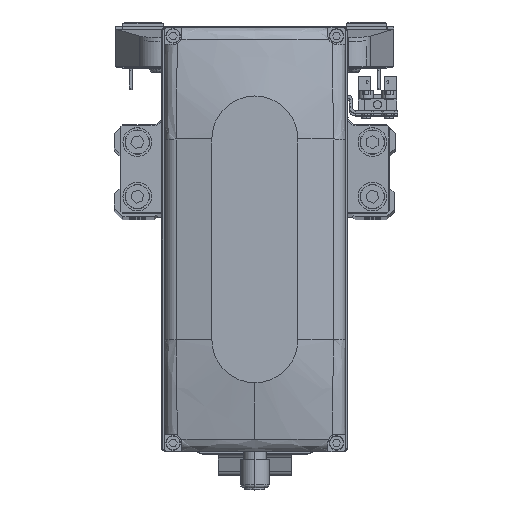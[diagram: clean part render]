
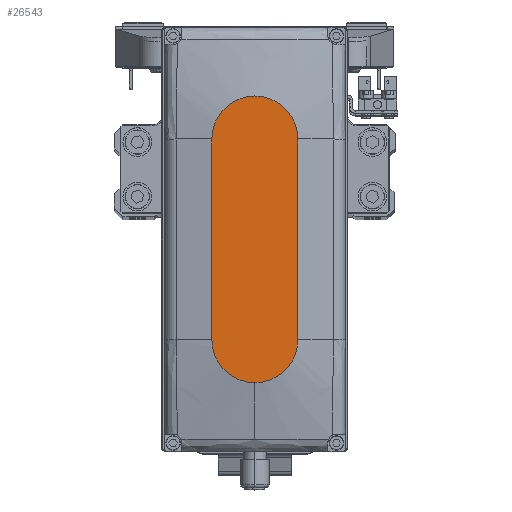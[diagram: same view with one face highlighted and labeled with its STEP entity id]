
A CAD part, top view. The second image highlights one B-rep face of the part: STEP entity #26543.
In plain terms, the highlighted planar face has unit normal (0, 0, 1).
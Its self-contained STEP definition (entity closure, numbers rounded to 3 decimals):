
#1871 = CARTESIAN_POINT ( 'NONE',  ( 50., 0., 35. ) ) ;
#1941 = CARTESIAN_POINT ( 'NONE',  ( 35., 15., 35. ) ) ;
#2955 = ORIENTED_EDGE ( 'NONE', *, *, #31698, .T. ) ;
#3033 = VECTOR ( 'NONE', #45150, 1000. ) ;
#5817 = DIRECTION ( 'NONE',  ( 1., 0., 0. ) ) ;
#6773 = LINE ( 'NONE', #20824, #24692 ) ;
#6947 = VERTEX_POINT ( 'NONE', #43796 ) ;
#7302 = VERTEX_POINT ( 'NONE', #18190 ) ;
#7974 = CARTESIAN_POINT ( 'NONE',  ( 35., 0., 35. ) ) ;
#8130 = DIRECTION ( 'NONE',  ( 0., 0., 1. ) ) ;
#9277 = PLANE ( 'NONE',  #15497 ) ;
#9479 = EDGE_LOOP ( 'NONE', ( #39248, #26191, #17462, #2955, #33939 ) ) ;
#9863 = CIRCLE ( 'NONE', #15734, 15. ) ;
#11831 = CARTESIAN_POINT ( 'NONE',  ( -35., 0., 35. ) ) ;
#15497 = AXIS2_PLACEMENT_3D ( 'NONE', #23336, #37379, #5817 ) ;
#15734 = AXIS2_PLACEMENT_3D ( 'NONE', #11831, #25890, #39936 ) ;
#17037 = LINE ( 'NONE', #31097, #3033 ) ;
#17462 = ORIENTED_EDGE ( 'NONE', *, *, #27127, .T. ) ;
#18190 = CARTESIAN_POINT ( 'NONE',  ( -35., 15., 35. ) ) ;
#20824 = CARTESIAN_POINT ( 'NONE',  ( -35., 15., 35. ) ) ;
#21836 = VERTEX_POINT ( 'NONE', #1941 ) ;
#21888 = CARTESIAN_POINT ( 'NONE',  ( -35., -15., 35. ) ) ;
#22020 = DIRECTION ( 'NONE',  ( 0., 0., 1. ) ) ;
#22175 = DIRECTION ( 'NONE',  ( 1., 0., 0. ) ) ;
#23174 = EDGE_CURVE ( 'NONE', #21836, #7302, #6773, .T. ) ;
#23336 = CARTESIAN_POINT ( 'NONE',  ( 0., 0., 35. ) ) ;
#24692 = VECTOR ( 'NONE', #34869, 1000. ) ;
#24759 = AXIS2_PLACEMENT_3D ( 'NONE', #7974, #22020, #36068 ) ;
#25232 = AXIS2_PLACEMENT_3D ( 'NONE', #29103, #8130, #22175 ) ;
#25890 = DIRECTION ( 'NONE',  ( 0., 0., 1. ) ) ;
#26191 = ORIENTED_EDGE ( 'NONE', *, *, #32537, .T. ) ;
#26543 = ADVANCED_FACE ( 'NONE', ( #40835 ), #9277, .T. ) ;
#27127 = EDGE_CURVE ( 'NONE', #33305, #6947, #17037, .T. ) ;
#29103 = CARTESIAN_POINT ( 'NONE',  ( 35., 0., 35. ) ) ;
#29364 = VERTEX_POINT ( 'NONE', #1871 ) ;
#31097 = CARTESIAN_POINT ( 'NONE',  ( -35., -15., 35. ) ) ;
#31698 = EDGE_CURVE ( 'NONE', #6947, #29364, #45128, .T. ) ;
#32537 = EDGE_CURVE ( 'NONE', #7302, #33305, #9863, .T. ) ;
#33305 = VERTEX_POINT ( 'NONE', #21888 ) ;
#33939 = ORIENTED_EDGE ( 'NONE', *, *, #36639, .T. ) ;
#34869 = DIRECTION ( 'NONE',  ( -1., 0., 0. ) ) ;
#36068 = DIRECTION ( 'NONE',  ( 1., 0., 0. ) ) ;
#36639 = EDGE_CURVE ( 'NONE', #29364, #21836, #44636, .T. ) ;
#37379 = DIRECTION ( 'NONE',  ( 0., 0., 1. ) ) ;
#39248 = ORIENTED_EDGE ( 'NONE', *, *, #23174, .T. ) ;
#39936 = DIRECTION ( 'NONE',  ( 1., 0., 0. ) ) ;
#40835 = FACE_OUTER_BOUND ( 'NONE', #9479, .T. ) ;
#43796 = CARTESIAN_POINT ( 'NONE',  ( 35., -15., 35. ) ) ;
#44636 = CIRCLE ( 'NONE', #24759, 15. ) ;
#45128 = CIRCLE ( 'NONE', #25232, 15. ) ;
#45150 = DIRECTION ( 'NONE',  ( 1., 0., 0. ) ) ;
